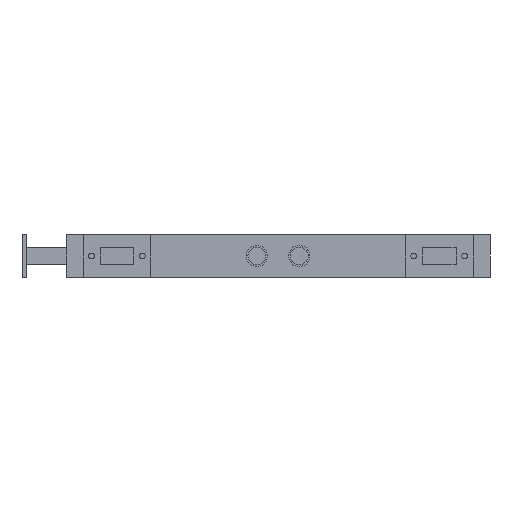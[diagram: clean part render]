
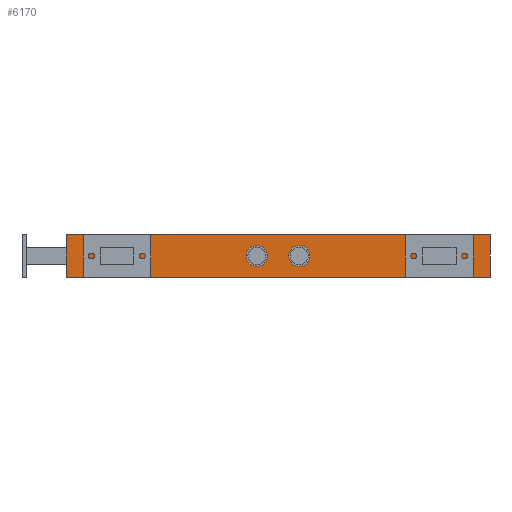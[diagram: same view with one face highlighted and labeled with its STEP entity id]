
A CAD part, front view. The second image highlights one B-rep face of the part: STEP entity #6170.
In plain terms, the highlighted planar face has unit normal (0, -1, 0).
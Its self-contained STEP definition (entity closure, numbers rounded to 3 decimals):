
#108 = CIRCLE ( 'NONE', #3764, 5. ) ;
#136 = VECTOR ( 'NONE', #3151, 1000. ) ;
#193 = CIRCLE ( 'NONE', #3881, 10.5 ) ;
#233 = CIRCLE ( 'NONE', #3837, 5. ) ;
#301 = LINE ( 'NONE', #3150, #136 ) ;
#384 = VECTOR ( 'NONE', #6496, 1000. ) ;
#421 = CIRCLE ( 'NONE', #3874, 10.5 ) ;
#479 = CIRCLE ( 'NONE', #3814, 10.5 ) ;
#485 = LINE ( 'NONE', #6495, #384 ) ;
#526 = VERTEX_POINT ( 'NONE', #860 ) ;
#532 = VERTEX_POINT ( 'NONE', #874 ) ;
#581 = VERTEX_POINT ( 'NONE', #1516 ) ;
#584 = VERTEX_POINT ( 'NONE', #1525 ) ;
#588 = VERTEX_POINT ( 'NONE', #1721 ) ;
#589 = VERTEX_POINT ( 'NONE', #1720 ) ;
#594 = VERTEX_POINT ( 'NONE', #1733 ) ;
#602 = VERTEX_POINT ( 'NONE', #1390 ) ;
#605 = VERTEX_POINT ( 'NONE', #1730 ) ;
#608 = VERTEX_POINT ( 'NONE', #1738 ) ;
#696 = VERTEX_POINT ( 'NONE', #1852 ) ;
#698 = VERTEX_POINT ( 'NONE', #1854 ) ;
#860 = CARTESIAN_POINT ( 'NONE',  ( 0., -1800., 0. ) ) ;
#874 = CARTESIAN_POINT ( 'NONE',  ( -500., -1800., 0. ) ) ;
#1102 = LINE ( 'NONE', #3246, #1180 ) ;
#1180 = VECTOR ( 'NONE', #3247, 1000. ) ;
#1390 = CARTESIAN_POINT ( 'NONE',  ( -440., -1800., 30. ) ) ;
#1516 = CARTESIAN_POINT ( 'NONE',  ( -225., -1800., 14.5 ) ) ;
#1520 = DIRECTION ( 'NONE',  ( 0., 0., -1. ) ) ;
#1522 = DIRECTION ( 'NONE',  ( 0., -1., 0. ) ) ;
#1524 = CARTESIAN_POINT ( 'NONE',  ( -440., -1800., 25. ) ) ;
#1525 = CARTESIAN_POINT ( 'NONE',  ( -225., -1800., 35.5 ) ) ;
#1720 = CARTESIAN_POINT ( 'NONE',  ( -60., -1800., 30. ) ) ;
#1721 = CARTESIAN_POINT ( 'NONE',  ( -440., -1800., 20. ) ) ;
#1730 = CARTESIAN_POINT ( 'NONE',  ( -60., -1800., 20. ) ) ;
#1733 = CARTESIAN_POINT ( 'NONE',  ( -275., -1800., 35.5 ) ) ;
#1738 = CARTESIAN_POINT ( 'NONE',  ( -275., -1800., 14.5 ) ) ;
#1852 = CARTESIAN_POINT ( 'NONE',  ( -500., -1800., 50. ) ) ;
#1854 = CARTESIAN_POINT ( 'NONE',  ( 0., -1800., 50. ) ) ;
#1970 = CIRCLE ( 'NONE', #3823, 10.5 ) ;
#2094 = LINE ( 'NONE', #4535, #2212 ) ;
#2109 = CIRCLE ( 'NONE', #3776, 5. ) ;
#2117 = CIRCLE ( 'NONE', #3938, 5. ) ;
#2212 = VECTOR ( 'NONE', #4516, 1000. ) ;
#2394 = EDGE_CURVE ( 'NONE', #588, #602, #2117, .T. ) ;
#2490 = EDGE_CURVE ( 'NONE', #605, #589, #2109, .T. ) ;
#2493 = EDGE_CURVE ( 'NONE', #532, #526, #2094, .T. ) ;
#2570 = EDGE_CURVE ( 'NONE', #608, #594, #1970, .T. ) ;
#2680 = EDGE_CURVE ( 'NONE', #581, #584, #193, .T. ) ;
#2688 = EDGE_CURVE ( 'NONE', #584, #581, #479, .T. ) ;
#2693 = EDGE_CURVE ( 'NONE', #696, #532, #485, .T. ) ;
#2752 = EDGE_CURVE ( 'NONE', #589, #605, #233, .T. ) ;
#2757 = EDGE_CURVE ( 'NONE', #594, #608, #421, .T. ) ;
#2798 = FACE_BOUND ( 'NONE', #4351, .T. ) ;
#2848 = FACE_OUTER_BOUND ( 'NONE', #5514, .T. ) ;
#2853 = FACE_BOUND ( 'NONE', #5518, .T. ) ;
#2871 = FACE_BOUND ( 'NONE', #5513, .T. ) ;
#2896 = FACE_BOUND ( 'NONE', #5451, .T. ) ;
#3150 = CARTESIAN_POINT ( 'NONE',  ( 0., -1800., 50. ) ) ;
#3151 = DIRECTION ( 'NONE',  ( 1., 0., 0. ) ) ;
#3160 = CARTESIAN_POINT ( 'NONE',  ( -440., -1800., 25. ) ) ;
#3161 = DIRECTION ( 'NONE',  ( 0., -1., 0. ) ) ;
#3162 = DIRECTION ( 'NONE',  ( 0., 0., -1. ) ) ;
#3246 = CARTESIAN_POINT ( 'NONE',  ( 0., -1800., 50. ) ) ;
#3247 = DIRECTION ( 'NONE',  ( 0., 0., -1. ) ) ;
#3454 = DIRECTION ( 'NONE',  ( 0., -1., 0. ) ) ;
#3455 = DIRECTION ( 'NONE',  ( 0., 0., -1. ) ) ;
#3456 = CARTESIAN_POINT ( 'NONE',  ( -275., -1800., 25. ) ) ;
#3764 = AXIS2_PLACEMENT_3D ( 'NONE', #3160, #3161, #3162 ) ;
#3776 = AXIS2_PLACEMENT_3D ( 'NONE', #5667, #4494, #4517 ) ;
#3814 = AXIS2_PLACEMENT_3D ( 'NONE', #6466, #6465, #6467 ) ;
#3823 = AXIS2_PLACEMENT_3D ( 'NONE', #3456, #3454, #3455 ) ;
#3837 = AXIS2_PLACEMENT_3D ( 'NONE', #5877, #5875, #5898 ) ;
#3874 = AXIS2_PLACEMENT_3D ( 'NONE', #5890, #5896, #5881 ) ;
#3881 = AXIS2_PLACEMENT_3D ( 'NONE', #6384, #6369, #6389 ) ;
#3897 = EDGE_CURVE ( 'NONE', #696, #698, #301, .T. ) ;
#3911 = EDGE_CURVE ( 'NONE', #602, #588, #108, .T. ) ;
#3938 = AXIS2_PLACEMENT_3D ( 'NONE', #1524, #1522, #1520 ) ;
#4008 = EDGE_CURVE ( 'NONE', #698, #526, #1102, .T. ) ;
#4351 = EDGE_LOOP ( 'NONE', ( #5614, #5608 ) ) ;
#4494 = DIRECTION ( 'NONE',  ( 0., -1., 0. ) ) ;
#4516 = DIRECTION ( 'NONE',  ( 1., 0., 0. ) ) ;
#4517 = DIRECTION ( 'NONE',  ( 0., 0., -1. ) ) ;
#4535 = CARTESIAN_POINT ( 'NONE',  ( 0., -1800., 0. ) ) ;
#5451 = EDGE_LOOP ( 'NONE', ( #5628, #5627 ) ) ;
#5513 = EDGE_LOOP ( 'NONE', ( #5651, #5617 ) ) ;
#5514 = EDGE_LOOP ( 'NONE', ( #5654, #5606, #5612, #5629 ) ) ;
#5518 = EDGE_LOOP ( 'NONE', ( #5652, #5657 ) ) ;
#5606 = ORIENTED_EDGE ( 'NONE', *, *, #4008, .F. ) ;
#5608 = ORIENTED_EDGE ( 'NONE', *, *, #2752, .F. ) ;
#5612 = ORIENTED_EDGE ( 'NONE', *, *, #3897, .F. ) ;
#5614 = ORIENTED_EDGE ( 'NONE', *, *, #2490, .F. ) ;
#5617 = ORIENTED_EDGE ( 'NONE', *, *, #2688, .F. ) ;
#5627 = ORIENTED_EDGE ( 'NONE', *, *, #2757, .F. ) ;
#5628 = ORIENTED_EDGE ( 'NONE', *, *, #2570, .F. ) ;
#5629 = ORIENTED_EDGE ( 'NONE', *, *, #2693, .T. ) ;
#5651 = ORIENTED_EDGE ( 'NONE', *, *, #2680, .F. ) ;
#5652 = ORIENTED_EDGE ( 'NONE', *, *, #2394, .F. ) ;
#5654 = ORIENTED_EDGE ( 'NONE', *, *, #2493, .T. ) ;
#5657 = ORIENTED_EDGE ( 'NONE', *, *, #3911, .F. ) ;
#5667 = CARTESIAN_POINT ( 'NONE',  ( -60., -1800., 25. ) ) ;
#5754 = CARTESIAN_POINT ( 'NONE',  ( 0., -1800., 50. ) ) ;
#5755 = PLANE ( 'NONE',  #6041 ) ;
#5757 = DIRECTION ( 'NONE',  ( 0., 0., 1. ) ) ;
#5758 = DIRECTION ( 'NONE',  ( 0., 1., 0. ) ) ;
#5875 = DIRECTION ( 'NONE',  ( 0., -1., 0. ) ) ;
#5877 = CARTESIAN_POINT ( 'NONE',  ( -60., -1800., 25. ) ) ;
#5881 = DIRECTION ( 'NONE',  ( 0., 0., -1. ) ) ;
#5890 = CARTESIAN_POINT ( 'NONE',  ( -275., -1800., 25. ) ) ;
#5896 = DIRECTION ( 'NONE',  ( 0., -1., 0. ) ) ;
#5898 = DIRECTION ( 'NONE',  ( 0., 0., -1. ) ) ;
#6041 = AXIS2_PLACEMENT_3D ( 'NONE', #5754, #5758, #5757 ) ;
#6170 = ADVANCED_FACE ( 'NONE', ( #2798, #2853, #2871, #2896, #2848 ), #5755, .F. ) ;
#6369 = DIRECTION ( 'NONE',  ( 0., -1., 0. ) ) ;
#6384 = CARTESIAN_POINT ( 'NONE',  ( -225., -1800., 25. ) ) ;
#6389 = DIRECTION ( 'NONE',  ( 0., 0., 1. ) ) ;
#6465 = DIRECTION ( 'NONE',  ( 0., -1., 0. ) ) ;
#6466 = CARTESIAN_POINT ( 'NONE',  ( -225., -1800., 25. ) ) ;
#6467 = DIRECTION ( 'NONE',  ( 0., 0., 1. ) ) ;
#6495 = CARTESIAN_POINT ( 'NONE',  ( -500., -1800., 50. ) ) ;
#6496 = DIRECTION ( 'NONE',  ( 0., 0., -1. ) ) ;
